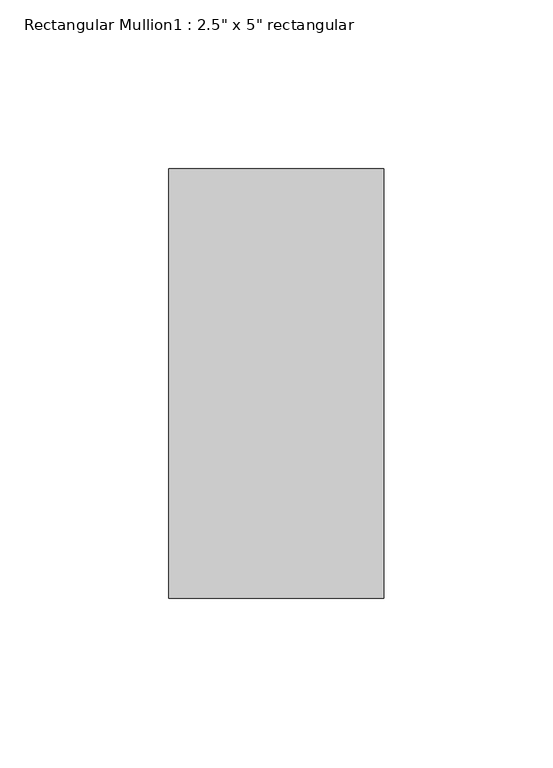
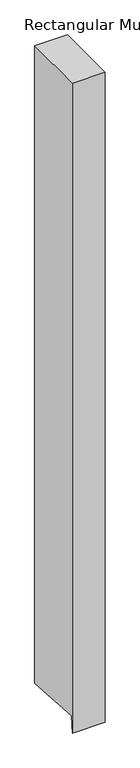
"""IFC4 building model written with IfcOpenShell, lengths in millimetres: member geometry."""

from ifc_helpers import new_model, si_unit, frame, origin, place, context, project, spatial, polyline, outline, extrude, source, transform, mapped, element, save


def member_1ee05d72(model_context):
    return source(origin(), model_context, "Body", "SweptSolid", [
        extrude(outline(polyline([(-63.5, 0.0), (63.5, 0.0), (63.5, -1307.2809876), (-61.0425175, -1298.2675313), (-63.5, -1332.2235469), (-63.5, 0.0)])), frame((-63.5, 0.0, 0.0), z_axis=(1.0, 0.0, 0.0), x_axis=(0.0, 1.0, 0.0)), (0.0, 0.0, 1.0), 63.5),
    ])


if __name__ == "__main__":
    model = new_model("IFC4")
    model_context = context("Model", 3, world=origin())
    ifc_project = project(units=[si_unit("LENGTHUNIT", "METRE", prefix="MILLI")], contexts=[model_context])
    site = spatial("IfcSite", under=ifc_project)
    building = spatial("IfcBuilding", under=site)
    placement = place(None, origin())
    member_shape = member_1ee05d72(model_context)
    element("IfcMember", 1, ObjectType="Rectangular Mullion1 : 2.5\" x 5\" rectangular", at=placement, inside=building, context=model_context, shape_type="MappedRepresentation", body=[
        mapped(member_shape, transform((0.0, 0.0, 0.0), x_axis=(1.0, 0.0, 0.0), y_axis=(0.0, 1.0, 0.0), z_axis=(0.0, 0.0, 1.0))),
    ])
    save(model, "model.ifc")
